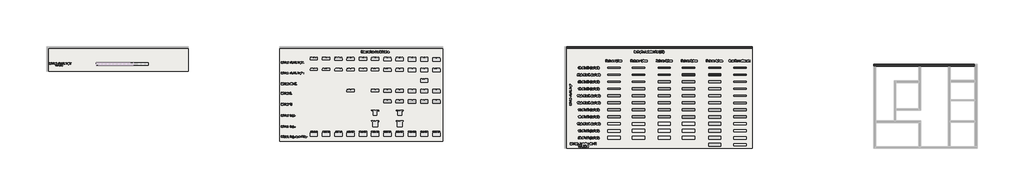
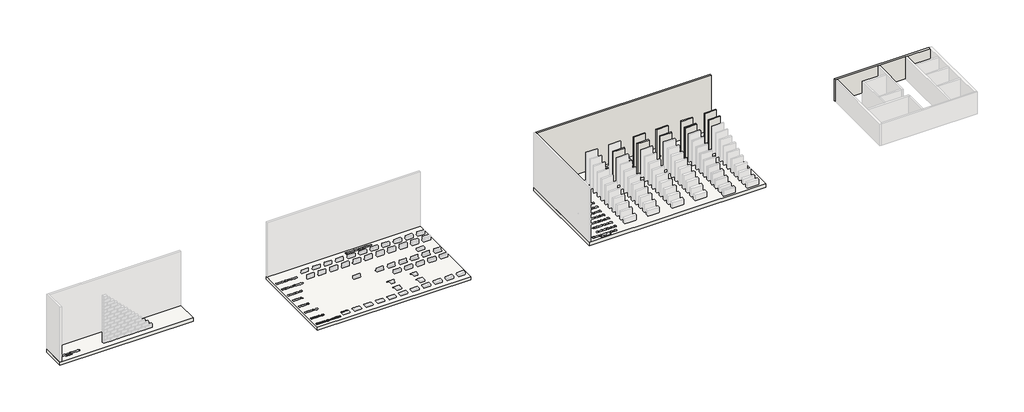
# One storey, part 2 of 26: 11 walls, 3 proxies, 3 slabs.
"""IFC4 building model written with IfcOpenShell, lengths in millimetres."""

from ifc_helpers import new_model, si_unit, frame, origin, origin_with_axes, place, context, project, spatial, polyline, outline, extrude, faceted_brep, element, save

model = new_model("IFC4")

# Units and contexts
model_context = context("Model", 3, world=origin())
ifc_project = project(units=[si_unit("LENGTHUNIT", "METRE", prefix="MILLI")], contexts=[model_context])

# Site, building, storey
site = spatial("IfcSite", under=ifc_project)
building = spatial("IfcBuilding", under=site)
storey = spatial("IfcBuildingStorey", under=building, Name="Catálogo Celucon", Elevation=0.0)

# Proxies
placement = place(None, origin())
element("IfcBuildingElementProxy", 1, Name="Legenda Tabela de Módulos", ObjectType="Legenda Tabela de Módulos", at=placement, inside=storey, context=model_context, shape_type="SweptSolid", body=[
    extrude(outline(polyline([(-16139.397214, -4234.6760122), (-16139.397214, -4083.9915469), (-16106.9868102, -4083.9915469), (-16076.158299, -4190.199079), (-16069.9410933, -4212.3823633), (-16063.2088528, -4188.359669), (-16032.8953764, -4083.9915469), (-16000.4849726, -4083.9915469), (-16000.4849726, -4234.6760122), (-16019.3205308, -4234.6760122), (-16019.3205308, -4102.8271051), (-16057.1755881, -4234.6760122), (-16082.7065985, -4234.6760122), (-16120.5616558, -4102.8271051), (-16120.5616558, -4234.6760122), (-16139.397214, -4234.6760122)])), origin_with_axes(), (0.0, 0.0, 1.0), 20.0),
    extrude(outline(polyline([(-15974.5860802, -4179.3465601), (-15970.5117871, -4152.6659184), (-15958.2889078, -4133.9131337), (-15943.1873519, -4124.7252809), (-15925.1059518, -4121.6626633), (-15905.318499, -4125.392067), (-15889.5133688, -4136.5802782), (-15879.1528921, -4154.34438), (-15875.6993999, -4177.8014557), (-15877.2261101, -4196.8301519), (-15881.806241, -4211.3155055), (-15889.3064352, -4222.1634258), (-15899.5933354, -4230.2798223), (-15911.8116162, -4235.3427983), (-15925.1059518, -4237.0304569), (-15945.1325279, -4233.3148488), (-15960.919264, -4222.1680243), (-15971.1693761, -4204.031442), (-15974.5860802, -4179.3465601)]), holes=[polyline([(-15955.750522, -4179.3097719), (-15953.5708212, -4196.3565038), (-15947.0317187, -4208.5012082), (-15937.1908754, -4215.7714761), (-15925.1059518, -4218.1948988), (-15913.0762106, -4215.7576806), (-15903.2537613, -4208.4460259), (-15896.7146588, -4196.1403732), (-15894.534958, -4178.7211607), (-15896.7284544, -4162.1710694), (-15903.3089436, -4150.191912), (-15913.1451884, -4142.921644), (-15925.1059518, -4140.4982214), (-15937.1908754, -4142.912447), (-15947.0317187, -4150.1551238), (-15953.5708212, -4162.272237), (-15955.750522, -4179.3097719)])]), origin_with_axes(), (0.0, 0.0, 1.0), 20.0),
    extrude(outline(polyline([(-15939.2694086, -4112.2448842), (-15925.14274, -4083.9915469), (-15901.5982923, -4083.9915469), (-15925.14274, -4112.2448842), (-15939.2694086, -4112.2448842)])), origin_with_axes(), (0.0, 0.0, 1.0), 20.0),
    extrude(outline(polyline([(-15786.2304986, -4234.6760122), (-15786.2304986, -4216.9073118), (-15798.6925012, -4231.9996707), (-15815.9185756, -4237.0304569), (-15828.0954697, -4235.2094411), (-15839.2422941, -4229.7463934), (-15848.6784673, -4221.0229916), (-15855.7234075, -4209.4209132), (-15860.1104003, -4195.4092077), (-15861.5727312, -4179.4569247), (-15856.18326, -4149.4745421), (-15849.4510195, -4137.5827566), (-15840.0332404, -4128.8363622), (-15828.6426942, -4123.456088), (-15815.992152, -4121.6626633), (-15798.6281219, -4126.7946171), (-15786.2304986, -4140.1303394), (-15786.2304986, -4083.9915469), (-15767.3949405, -4083.9915469), (-15767.3949405, -4234.6760122), (-15786.2304986, -4234.6760122)]), holes=[polyline([(-15842.7371731, -4179.3833483), (-15840.6126546, -4196.4208832), (-15834.239099, -4208.5379964), (-15824.9776698, -4215.7806732), (-15814.1895303, -4218.1948988), (-15803.4059893, -4215.8910378), (-15794.3790848, -4208.9794548), (-15788.2676452, -4197.3313911), (-15786.2304986, -4180.8180881), (-15788.3044334, -4162.7642792), (-15794.5262376, -4150.2470943), (-15803.7830683, -4142.9354396), (-15814.9620825, -4140.4982214), (-15825.8605866, -4142.8388706), (-15834.790922, -4149.8608182), (-15840.7506103, -4161.9227491), (-15842.7371731, -4179.3833483)])]), origin_with_axes(), (0.0, 0.0, 1.0), 20.0),
    extrude(outline(polyline([(-15668.5082602, -4234.6760122), (-15668.5082602, -4215.656513), (-15683.2603282, -4231.686971), (-15702.5005565, -4237.0304569), (-15720.2140746, -4233.2780606), (-15732.4277568, -4223.8602815), (-15738.0379573, -4209.9911303), (-15739.1416032, -4192.4799473), (-15739.1416032, -4124.017108), (-15720.3060451, -4124.017108), (-15720.3060451, -4183.6139912), (-15719.1656109, -4202.8174314), (-15711.7160005, -4214.0930145), (-15697.6813024, -4218.1948988), (-15681.9543471, -4214.001044), (-15671.5616807, -4202.5783081), (-15668.5082602, -4181.5906403), (-15668.5082602, -4124.017108), (-15649.672702, -4124.017108), (-15649.672702, -4234.6760122), (-15668.5082602, -4234.6760122)])), origin_with_axes(), (0.0, 0.0, 1.0), 20.0),
    extrude(outline(polyline([(-15623.7738096, -4234.6760122), (-15623.7738096, -4083.9915469), (-15604.9382514, -4083.9915469), (-15604.9382514, -4234.6760122), (-15623.7738096, -4234.6760122)])), origin_with_axes(), (0.0, 0.0, 1.0), 20.0),
    extrude(outline(polyline([(-15581.3938037, -4179.3465601), (-15577.3195106, -4152.6659184), (-15565.0966313, -4133.9131337), (-15549.9950754, -4124.7252809), (-15531.9136754, -4121.6626633), (-15512.1262226, -4125.392067), (-15496.3210923, -4136.5802782), (-15485.9606156, -4154.34438), (-15482.5071234, -4177.8014557), (-15484.0338337, -4196.8301519), (-15488.6139645, -4211.3155055), (-15496.1141587, -4222.1634258), (-15506.401059, -4230.2798223), (-15518.6193398, -4235.3427983), (-15531.9136754, -4237.0304569), (-15551.9402515, -4233.3148488), (-15567.7269876, -4222.1680243), (-15577.9770997, -4204.031442), (-15581.3938037, -4179.3465601)]), holes=[polyline([(-15562.5582456, -4179.3097719), (-15560.3785447, -4196.3565038), (-15553.8394423, -4208.5012082), (-15543.9985989, -4215.7714761), (-15531.9136754, -4218.1948988), (-15519.8839341, -4215.7576806), (-15510.0614849, -4208.4460259), (-15503.5223824, -4196.1403732), (-15501.3426816, -4178.7211607), (-15503.536178, -4162.1710694), (-15510.1166672, -4150.191912), (-15519.952912, -4142.921644), (-15531.9136754, -4140.4982214), (-15543.9985989, -4142.912447), (-15553.8394423, -4150.1551238), (-15560.3785447, -4162.272237), (-15562.5582456, -4179.3097719)])]), origin_with_axes(), (0.0, 0.0, 1.0), 20.0),
    extrude(outline(polyline([(-15400.1015565, -4234.6760122), (-15400.1015565, -4083.9915469), (-15381.2659983, -4083.9915469), (-15381.2659983, -4215.840454), (-15305.9237657, -4215.840454), (-15305.9237657, -4234.6760122), (-15400.1015565, -4234.6760122)])), origin_with_axes(), (0.0, 0.0, 1.0), 20.0),
    extrude(outline(polyline([(-15171.7204139, -4102.8271051), (-15171.7204139, -4083.9915469), (-15152.8848557, -4083.9915469), (-15152.8848557, -4102.8271051), (-15171.7204139, -4102.8271051)])), origin_with_axes(), (0.0, 0.0, 1.0), 20.0),
    extrude(outline(polyline([(-15195.4488026, -4277.1295944), (-15191.475677, -4259.2137412), (-15182.8304501, -4260.5749046), (-15174.4611348, -4256.8409024), (-15171.7204139, -4238.1708911), (-15171.7204139, -4124.017108), (-15152.8848557, -4124.017108), (-15152.8848557, -4240.5989123), (-15154.218428, -4257.8893661), (-15158.2191447, -4268.9994023), (-15167.2322535, -4276.8076977), (-15180.7335228, -4279.4104628), (-15195.4488026, -4277.1295944)])), origin_with_axes(), (0.0, 0.0, 1.0), 20.0),
    extrude(outline(polyline([(-15216.4548645, -4220.5493436), (-15234.7202056, -4233.3148488), (-15254.898533, -4237.0304569), (-15270.6392839, -4234.7955738), (-15282.2505593, -4228.0909245), (-15289.4104627, -4217.9097902), (-15291.7970971, -4205.2454526), (-15288.1918536, -4190.3462318), (-15278.7188922, -4179.5305011), (-15265.5303227, -4173.3500836), (-15249.2331503, -4170.5173922), (-15216.5652291, -4164.0426691), (-15216.4548645, -4159.8488144), (-15217.7516485, -4151.4427108), (-15221.6420006, -4145.9428749), (-15230.3424098, -4141.8593848), (-15242.4641216, -4140.4982214), (-15261.5204089, -4144.1218591), (-15270.6070942, -4156.9793348), (-15289.4426523, -4154.62489), (-15281.2940662, -4136.2307903), (-15264.8865292, -4125.4518478), (-15240.0361004, -4121.6626633), (-15217.2090226, -4125.0103894), (-15204.3147587, -4133.416493), (-15198.5390113, -4146.2003923), (-15197.6193063, -4162.6815057), (-15197.6193063, -4186.1155888), (-15196.6628132, -4218.8386923), (-15192.9104168, -4234.6760122), (-15211.745975, -4234.6760122), (-15216.4548645, -4220.5493436)]), holes=[polyline([(-15216.4548645, -4182.8782272), (-15246.8419173, -4188.6539746), (-15263.0471192, -4191.7073951), (-15270.386365, -4196.6738021), (-15272.961539, -4203.9210774), (-15267.3513385, -4214.1114086), (-15250.8886193, -4218.1948988), (-15231.8323319, -4213.6883443), (-15219.5450733, -4202.7806432), (-15216.5652291, -4188.2125162), (-15216.4548645, -4182.8782272)])]), origin_with_axes(), (0.0, 0.0, 1.0), 20.0),
    extrude(outline(polyline([(-15047.1555703, -4201.7137854), (-15028.6878942, -4204.0682302), (-15035.3419598, -4217.9833666), (-15045.9599538, -4228.3852301), (-15060.3027531, -4234.8691502), (-15078.1312343, -4237.0304569), (-15100.2317452, -4233.3010532), (-15117.2370904, -4222.112842), (-15128.0804122, -4204.1923903), (-15131.6948528, -4180.2662651), (-15128.043624, -4155.535398), (-15117.0899376, -4137.0401307), (-15100.3145186, -4125.5070301), (-15079.1980921, -4121.6626633), (-15058.7392546, -4125.4978331), (-15042.3914985, -4137.0033425), (-15031.6723369, -4155.4618216), (-15028.099283, -4180.1559005), (-15028.2096476, -4185.232672), (-15112.8592947, -4185.232672), (-15109.5989405, -4199.3317495), (-15102.0251699, -4209.6968247), (-15091.0944761, -4216.0703803), (-15077.7633523, -4218.1948988), (-15059.2956762, -4214.2585614), (-15047.1555703, -4201.7137854)]), holes=[polyline([(-15112.8592947, -4166.3971139), (-15046.9348411, -4166.3971139), (-15049.4824239, -4156.4459059), (-15054.476422, -4149.3273893), (-15065.4576996, -4142.7055134), (-15079.2716685, -4140.4982214), (-15091.9681959, -4142.2594565), (-15102.4666283, -4147.5431616), (-15109.7644874, -4155.7791198), (-15112.8592947, -4166.3971139)])]), origin_with_axes(), (0.0, 0.0, 1.0), 20.0),
])
element("IfcBuildingElementProxy", 2, Name="Legenda Tabela de Módulos", ObjectType="Legenda Tabela de Módulos", at=placement, inside=storey, context=model_context, shape_type="SweptSolid", body=[
    extrude(outline(polyline([(-16139.397214, -5054.6760122), (-16139.397214, -4903.9915469), (-16106.9868102, -4903.9915469), (-16076.158299, -5010.199079), (-16069.9410933, -5032.3823633), (-16063.2088528, -5008.359669), (-16032.8953764, -4903.9915469), (-16000.4849726, -4903.9915469), (-16000.4849726, -5054.6760122), (-16019.3205308, -5054.6760122), (-16019.3205308, -4922.8271051), (-16057.1755881, -5054.6760122), (-16082.7065985, -5054.6760122), (-16120.5616558, -4922.8271051), (-16120.5616558, -5054.6760122), (-16139.397214, -5054.6760122)])), origin_with_axes(), (0.0, 0.0, 1.0), 20.0),
    extrude(outline(polyline([(-15974.5860802, -4999.3465601), (-15970.5117871, -4972.6659184), (-15958.2889078, -4953.9131337), (-15943.1873519, -4944.7252809), (-15925.1059518, -4941.6626633), (-15905.318499, -4945.392067), (-15889.5133688, -4956.5802782), (-15879.1528921, -4974.34438), (-15875.6993999, -4997.8014557), (-15877.2261101, -5016.8301519), (-15881.806241, -5031.3155055), (-15889.3064352, -5042.1634258), (-15899.5933354, -5050.2798223), (-15911.8116162, -5055.3427983), (-15925.1059518, -5057.0304569), (-15945.1325279, -5053.3148488), (-15960.919264, -5042.1680243), (-15971.1693761, -5024.031442), (-15974.5860802, -4999.3465601)]), holes=[polyline([(-15955.750522, -4999.3097719), (-15953.5708212, -5016.3565038), (-15947.0317187, -5028.5012082), (-15937.1908754, -5035.7714761), (-15925.1059518, -5038.1948988), (-15913.0762106, -5035.7576806), (-15903.2537613, -5028.4460259), (-15896.7146588, -5016.1403732), (-15894.534958, -4998.7211607), (-15896.7284544, -4982.1710694), (-15903.3089436, -4970.191912), (-15913.1451884, -4962.921644), (-15925.1059518, -4960.4982214), (-15937.1908754, -4962.912447), (-15947.0317187, -4970.1551238), (-15953.5708212, -4982.272237), (-15955.750522, -4999.3097719)])]), origin_with_axes(), (0.0, 0.0, 1.0), 20.0),
    extrude(outline(polyline([(-15939.2694086, -4932.2448842), (-15925.14274, -4903.9915469), (-15901.5982923, -4903.9915469), (-15925.14274, -4932.2448842), (-15939.2694086, -4932.2448842)])), origin_with_axes(), (0.0, 0.0, 1.0), 20.0),
    extrude(outline(polyline([(-15786.2304986, -5054.6760122), (-15786.2304986, -5036.9073118), (-15798.6925012, -5051.9996707), (-15815.9185756, -5057.0304569), (-15828.0954697, -5055.2094411), (-15839.2422941, -5049.7463934), (-15848.6784673, -5041.0229916), (-15855.7234075, -5029.4209132), (-15860.1104003, -5015.4092077), (-15861.5727312, -4999.4569247), (-15856.18326, -4969.4745421), (-15849.4510195, -4957.5827566), (-15840.0332404, -4948.8363622), (-15828.6426942, -4943.456088), (-15815.992152, -4941.6626633), (-15798.6281219, -4946.7946171), (-15786.2304986, -4960.1303394), (-15786.2304986, -4903.9915469), (-15767.3949405, -4903.9915469), (-15767.3949405, -5054.6760122), (-15786.2304986, -5054.6760122)]), holes=[polyline([(-15842.7371731, -4999.3833483), (-15840.6126546, -5016.4208832), (-15834.239099, -5028.5379964), (-15824.9776698, -5035.7806732), (-15814.1895303, -5038.1948988), (-15803.4059893, -5035.8910378), (-15794.3790848, -5028.9794548), (-15788.2676452, -5017.3313911), (-15786.2304986, -5000.8180881), (-15788.3044334, -4982.7642792), (-15794.5262376, -4970.2470943), (-15803.7830683, -4962.9354396), (-15814.9620825, -4960.4982214), (-15825.8605866, -4962.8388706), (-15834.790922, -4969.8608182), (-15840.7506103, -4981.9227491), (-15842.7371731, -4999.3833483)])]), origin_with_axes(), (0.0, 0.0, 1.0), 20.0),
    extrude(outline(polyline([(-15668.5082602, -5054.6760122), (-15668.5082602, -5035.656513), (-15683.2603282, -5051.686971), (-15702.5005565, -5057.0304569), (-15720.2140746, -5053.2780606), (-15732.4277568, -5043.8602815), (-15738.0379573, -5029.9911303), (-15739.1416032, -5012.4799473), (-15739.1416032, -4944.017108), (-15720.3060451, -4944.017108), (-15720.3060451, -5003.6139912), (-15719.1656109, -5022.8174314), (-15711.7160005, -5034.0930145), (-15697.6813024, -5038.1948988), (-15681.9543471, -5034.001044), (-15671.5616807, -5022.5783081), (-15668.5082602, -5001.5906403), (-15668.5082602, -4944.017108), (-15649.672702, -4944.017108), (-15649.672702, -5054.6760122), (-15668.5082602, -5054.6760122)])), origin_with_axes(), (0.0, 0.0, 1.0), 20.0),
    extrude(outline(polyline([(-15623.7738096, -5054.6760122), (-15623.7738096, -4903.9915469), (-15604.9382514, -4903.9915469), (-15604.9382514, -5054.6760122), (-15623.7738096, -5054.6760122)])), origin_with_axes(), (0.0, 0.0, 1.0), 20.0),
    extrude(outline(polyline([(-15581.3938037, -4999.3465601), (-15577.3195106, -4972.6659184), (-15565.0966313, -4953.9131337), (-15549.9950754, -4944.7252809), (-15531.9136754, -4941.6626633), (-15512.1262226, -4945.392067), (-15496.3210923, -4956.5802782), (-15485.9606156, -4974.34438), (-15482.5071234, -4997.8014557), (-15484.0338337, -5016.8301519), (-15488.6139645, -5031.3155055), (-15496.1141587, -5042.1634258), (-15506.401059, -5050.2798223), (-15518.6193398, -5055.3427983), (-15531.9136754, -5057.0304569), (-15551.9402515, -5053.3148488), (-15567.7269876, -5042.1680243), (-15577.9770997, -5024.031442), (-15581.3938037, -4999.3465601)]), holes=[polyline([(-15562.5582456, -4999.3097719), (-15560.3785447, -5016.3565038), (-15553.8394423, -5028.5012082), (-15543.9985989, -5035.7714761), (-15531.9136754, -5038.1948988), (-15519.8839341, -5035.7576806), (-15510.0614849, -5028.4460259), (-15503.5223824, -5016.1403732), (-15501.3426816, -4998.7211607), (-15503.536178, -4982.1710694), (-15510.1166672, -4970.191912), (-15519.952912, -4962.921644), (-15531.9136754, -4960.4982214), (-15543.9985989, -4962.912447), (-15553.8394423, -4970.1551238), (-15560.3785447, -4982.272237), (-15562.5582456, -4999.3097719)])]), origin_with_axes(), (0.0, 0.0, 1.0), 20.0),
    extrude(outline(polyline([(-15400.1015565, -5054.6760122), (-15400.1015565, -4903.9915469), (-15381.2659983, -4903.9915469), (-15381.2659983, -5035.840454), (-15305.9237657, -5035.840454), (-15305.9237657, -5054.6760122), (-15400.1015565, -5054.6760122)])), origin_with_axes(), (0.0, 0.0, 1.0), 20.0),
    extrude(outline(polyline([(-15171.7204139, -4922.8271051), (-15171.7204139, -4903.9915469), (-15152.8848557, -4903.9915469), (-15152.8848557, -4922.8271051), (-15171.7204139, -4922.8271051)])), origin_with_axes(), (0.0, 0.0, 1.0), 20.0),
    extrude(outline(polyline([(-15195.4488026, -5097.1295944), (-15191.475677, -5079.2137412), (-15182.8304501, -5080.5749046), (-15174.4611348, -5076.8409024), (-15171.7204139, -5058.1708911), (-15171.7204139, -4944.017108), (-15152.8848557, -4944.017108), (-15152.8848557, -5060.5989123), (-15154.218428, -5077.8893661), (-15158.2191447, -5088.9994023), (-15167.2322535, -5096.8076977), (-15180.7335228, -5099.4104628), (-15195.4488026, -5097.1295944)])), origin_with_axes(), (0.0, 0.0, 1.0), 20.0),
    extrude(outline(polyline([(-15216.4548645, -5040.5493436), (-15234.7202056, -5053.3148488), (-15254.898533, -5057.0304569), (-15270.6392839, -5054.7955738), (-15282.2505593, -5048.0909245), (-15289.4104627, -5037.9097902), (-15291.7970971, -5025.2454526), (-15288.1918536, -5010.3462318), (-15278.7188922, -4999.5305011), (-15265.5303227, -4993.3500836), (-15249.2331503, -4990.5173922), (-15216.5652291, -4984.0426691), (-15216.4548645, -4979.8488144), (-15217.7516485, -4971.4427108), (-15221.6420006, -4965.9428749), (-15230.3424098, -4961.8593848), (-15242.4641216, -4960.4982214), (-15261.5204089, -4964.1218591), (-15270.6070942, -4976.9793348), (-15289.4426523, -4974.62489), (-15281.2940662, -4956.2307903), (-15264.8865292, -4945.4518478), (-15240.0361004, -4941.6626633), (-15217.2090226, -4945.0103894), (-15204.3147587, -4953.416493), (-15198.5390113, -4966.2003923), (-15197.6193063, -4982.6815057), (-15197.6193063, -5006.1155888), (-15196.6628132, -5038.8386923), (-15192.9104168, -5054.6760122), (-15211.745975, -5054.6760122), (-15216.4548645, -5040.5493436)]), holes=[polyline([(-15216.4548645, -5002.8782272), (-15246.8419173, -5008.6539746), (-15263.0471192, -5011.7073951), (-15270.386365, -5016.6738021), (-15272.961539, -5023.9210774), (-15267.3513385, -5034.1114086), (-15250.8886193, -5038.1948988), (-15231.8323319, -5033.6883443), (-15219.5450733, -5022.7806432), (-15216.5652291, -5008.2125162), (-15216.4548645, -5002.8782272)])]), origin_with_axes(), (0.0, 0.0, 1.0), 20.0),
    extrude(outline(polyline([(-15047.1555703, -5021.7137854), (-15028.6878942, -5024.0682302), (-15035.3419598, -5037.9833666), (-15045.9599538, -5048.3852301), (-15060.3027531, -5054.8691502), (-15078.1312343, -5057.0304569), (-15100.2317452, -5053.3010532), (-15117.2370904, -5042.112842), (-15128.0804122, -5024.1923903), (-15131.6948528, -5000.2662651), (-15128.043624, -4975.535398), (-15117.0899376, -4957.0401307), (-15100.3145186, -4945.5070301), (-15079.1980921, -4941.6626633), (-15058.7392546, -4945.4978331), (-15042.3914985, -4957.0033425), (-15031.6723369, -4975.4618216), (-15028.099283, -5000.1559005), (-15028.2096476, -5005.232672), (-15112.8592947, -5005.232672), (-15109.5989405, -5019.3317495), (-15102.0251699, -5029.6968247), (-15091.0944761, -5036.0703803), (-15077.7633523, -5038.1948988), (-15059.2956762, -5034.2585614), (-15047.1555703, -5021.7137854)]), holes=[polyline([(-15112.8592947, -4986.3971139), (-15046.9348411, -4986.3971139), (-15049.4824239, -4976.4459059), (-15054.476422, -4969.3273893), (-15065.4576996, -4962.7055134), (-15079.2716685, -4960.4982214), (-15091.9681959, -4962.2594565), (-15102.4666283, -4967.5431616), (-15109.7644874, -4975.7791198), (-15112.8592947, -4986.3971139)])]), origin_with_axes(), (0.0, 0.0, 1.0), 20.0),
    extrude(outline(polyline([(-14879.7692625, -5014.6504511), (-14860.9337044, -5017.0048959), (-14866.1852198, -5033.7573222), (-14876.0536544, -5046.4170614), (-14889.6101059, -5054.377108), (-14905.9256724, -5057.0304569), (-14925.9614455, -5053.3286444), (-14941.62862, -5042.2232066), (-14951.7407763, -5024.2015874), (-14955.1114951, -4999.7512303), (-14953.6721568, -4982.9896069), (-14949.3541419, -4968.4628666), (-14942.0884725, -4956.7320295), (-14931.8061707, -4948.3581156), (-14919.5051165, -4943.3365263), (-14906.1831898, -4941.6626633), (-14890.267695, -4943.9619257), (-14877.5435764, -4950.8597131), (-14868.4155044, -4961.9881435), (-14863.2881491, -4976.9793348), (-14882.1237073, -4979.3337796), (-14890.8609047, -4965.225505), (-14906.036037, -4960.4982214), (-14918.2083325, -4962.825075), (-14927.8698334, -4969.8056359), (-14934.1744111, -4981.816983), (-14936.275937, -4999.2361955), (-14934.2203963, -5016.8899327), (-14928.0537744, -5028.9426666), (-14918.5670174, -5035.8818407), (-14906.5510718, -5038.1948988), (-14896.7976004, -5036.750962), (-14888.8007655, -5032.4191515), (-14882.9836314, -5025.0891027), (-14879.7692625, -5014.6504511)])), origin_with_axes(), (0.0, 0.0, 1.0), 20.0),
    extrude(outline(polyline([(-14849.1614805, -4999.3465601), (-14845.0871874, -4972.6659184), (-14832.8643081, -4953.9131337), (-14817.7627522, -4944.7252809), (-14799.6813522, -4941.6626633), (-14779.8938994, -4945.392067), (-14764.0887691, -4956.5802782), (-14753.7282924, -4974.34438), (-14750.2748002, -4997.8014557), (-14751.8015105, -5016.8301519), (-14756.3816413, -5031.3155055), (-14763.8818355, -5042.1634258), (-14774.1687358, -5050.2798223), (-14786.3870166, -5055.3427983), (-14799.6813522, -5057.0304569), (-14819.7079283, -5053.3148488), (-14835.4946644, -5042.1680243), (-14845.7447765, -5024.031442), (-14849.1614805, -4999.3465601)]), holes=[polyline([(-14830.3259224, -4999.3097719), (-14828.1462215, -5016.3565038), (-14821.6071191, -5028.5012082), (-14811.7662757, -5035.7714761), (-14799.6813522, -5038.1948988), (-14787.6516109, -5035.7576806), (-14777.8291617, -5028.4460259), (-14771.2900592, -5016.1403732), (-14769.1103584, -4998.7211607), (-14771.3038548, -4982.1710694), (-14777.884344, -4970.191912), (-14787.7205888, -4962.921644), (-14799.6813522, -4960.4982214), (-14811.7662757, -4962.912447), (-14821.6071191, -4970.1551238), (-14828.1462215, -4982.272237), (-14830.3259224, -4999.3097719)])]), origin_with_axes(), (0.0, 0.0, 1.0), 20.0),
    extrude(outline(polyline([(-14729.0847973, -5054.6760122), (-14729.0847973, -4944.017108), (-14710.2492391, -4944.017108), (-14710.2492391, -4962.2272668), (-14697.2997929, -4947.3096519), (-14678.868905, -4941.6626633), (-14668.3934651, -4943.1020016), (-14659.9965586, -4947.4200165), (-14649.6222863, -4963.551642), (-14634.9254006, -4947.1349079), (-14616.365754, -4941.6626633), (-14602.2068957, -4943.9389331), (-14591.7360544, -4950.7677426), (-14585.2659298, -4962.3330329), (-14583.1092216, -4978.8187448), (-14583.1092216, -5054.6760122), (-14601.9447798, -5054.6760122), (-14601.9447798, -4986.9121487), (-14603.6922192, -4971.1851934), (-14610.0197896, -4963.4412774), (-14620.7803379, -4960.4982214), (-14630.9844648, -4962.3836166), (-14639.3031964, -4968.0398023), (-14644.8352219, -4977.8530545), (-14646.6792304, -4992.2096494), (-14646.6792304, -5054.6760122), (-14665.5147885, -5054.6760122), (-14665.5147885, -4984.8152213), (-14669.8741902, -4966.5682743), (-14675.6269449, -4962.0157346), (-14684.1664057, -4960.4982214), (-14698.1091333, -4964.5449234), (-14707.3797596, -4976.3907236), (-14710.2492391, -4998.8683135), (-14710.2492391, -5054.6760122), (-14729.0847973, -5054.6760122)])), origin_with_axes(), (0.0, 0.0, 1.0), 20.0),
    extrude(outline(polyline([(-14493.6403204, -5054.6760122), (-14493.6403204, -4903.9915469), (-14392.3991953, -4903.9915469), (-14392.3991953, -4922.8271051), (-14474.8047622, -4922.8271051), (-14474.8047622, -4967.5615557), (-14404.1714192, -4967.5615557), (-14404.1714192, -4986.3971139), (-14474.8047622, -4986.3971139), (-14474.8047622, -5054.6760122), (-14493.6403204, -5054.6760122)])), origin_with_axes(), (0.0, 0.0, 1.0), 20.0),
    extrude(outline(polyline([(-14368.8547476, -5054.6760122), (-14368.8547476, -4944.017108), (-14352.3736342, -4944.017108), (-14352.3736342, -4960.3878568), (-14340.6749868, -4945.304695), (-14328.9027629, -4941.6626633), (-14309.9936284, -4947.4751988), (-14316.2844105, -4964.3609824), (-14329.5281623, -4960.4982214), (-14340.1783461, -4964.2138296), (-14346.9657689, -4974.5145254), (-14350.0191895, -4996.5138687), (-14350.0191895, -5054.6760122), (-14368.8547476, -5054.6760122)])), origin_with_axes(), (0.0, 0.0, 1.0), 20.0),
    extrude(outline(polyline([(-14298.2214045, -4922.8271051), (-14298.2214045, -4903.9915469), (-14279.3858464, -4903.9915469), (-14279.3858464, -4922.8271051), (-14298.2214045, -4922.8271051)])), origin_with_axes(), (0.0, 0.0, 1.0), 20.0),
    extrude(outline(polyline([(-14298.2214045, -5054.6760122), (-14298.2214045, -4944.017108), (-14279.3858464, -4944.017108), (-14279.3858464, -5054.6760122), (-14298.2214045, -5054.6760122)])), origin_with_axes(), (0.0, 0.0, 1.0), 20.0),
    extrude(outline(polyline([(-14258.1958435, -5021.7137854), (-14239.3602853, -5019.3593406), (-14236.3896382, -5027.4159563), (-14230.641482, -5033.3388564), (-14210.6654897, -5038.1948988), (-14191.4620495, -5033.7435266), (-14185.2080556, -5023.295678), (-14186.7807512, -5018.4948179), (-14191.4988377, -5014.8343921), (-14210.8862189, -5009.463315), (-14239.2499207, -5000.247871), (-14251.6291499, -4989.4873226), (-14255.8413987, -4974.2937962), (-14252.4568843, -4960.2590981), (-14243.2230463, -4949.5353379), (-14231.2484873, -4943.9619257), (-14215.0432854, -4941.6626633), (-14192.1242371, -4945.3598773), (-14177.5561101, -4955.3662676), (-14171.081387, -4972.2704453), (-14189.9169452, -4974.62489), (-14196.9986736, -4964.2322237), (-14213.5717575, -4960.4982214), (-14231.5979752, -4964.0666768), (-14237.0058405, -4972.3808098), (-14234.7617604, -4977.8622516), (-14227.7352143, -4982.0193181), (-14211.5116183, -4986.0292319), (-14183.8652863, -4994.895188), (-14171.0262047, -5004.9383664), (-14166.3724975, -5021.3091152), (-14171.8355451, -5039.335333), (-14187.5992886, -5052.4135379), (-14210.9230071, -5057.0304569), (-14229.9149151, -5054.8047709), (-14243.7748693, -5048.1277127), (-14253.0271014, -5037.0728587), (-14258.1958435, -5021.7137854)])), origin_with_axes(), (0.0, 0.0, 1.0), 20.0),
    extrude(outline(polyline([(-14149.8913841, -4999.3465601), (-14145.817091, -4972.6659184), (-14133.5942117, -4953.9131337), (-14118.4926558, -4944.7252809), (-14100.4112557, -4941.6626633), (-14080.6238029, -4945.392067), (-14064.8186727, -4956.5802782), (-14054.458196, -4974.34438), (-14051.0047038, -4997.8014557), (-14052.5314141, -5016.8301519), (-14057.1115449, -5031.3155055), (-14064.6117391, -5042.1634258), (-14074.8986394, -5050.2798223), (-14087.1169201, -5055.3427983), (-14100.4112557, -5057.0304569), (-14120.4378318, -5053.3148488), (-14136.224568, -5042.1680243), (-14146.4746801, -5024.031442), (-14149.8913841, -4999.3465601)]), holes=[polyline([(-14131.0558259, -4999.3097719), (-14128.8761251, -5016.3565038), (-14122.3370226, -5028.5012082), (-14112.4961793, -5035.7714761), (-14100.4112557, -5038.1948988), (-14088.3815145, -5035.7576806), (-14078.5590652, -5028.4460259), (-14072.0199628, -5016.1403732), (-14069.8402619, -4998.7211607), (-14072.0337583, -4982.1710694), (-14078.6142475, -4970.191912), (-14088.4504924, -4962.921644), (-14100.4112557, -4960.4982214), (-14112.4961793, -4962.912447), (-14122.3370226, -4970.1551238), (-14128.8761251, -4982.272237), (-14131.0558259, -4999.3097719)])]), origin_with_axes(), (0.0, 0.0, 1.0), 20.0),
])
element("IfcBuildingElementProxy", 3, Name="Dimensões", ObjectType="Dimensões", at=placement, inside=storey, context=model_context, shape_type="SweptSolid", body=[
    extrude(outline(polyline([(-13781.5709703, -4574.9666048), (-13779.725429, -4560.5149738), (-13774.2439872, -4552.1824466), (-13765.0898569, -4549.4478571), (-13757.7567425, -4551.0665379), (-13752.6922337, -4555.7325078), (-13749.7491777, -4563.1637241), (-13748.6087435, -4574.9666048), (-13750.4358908, -4589.3569222), (-13755.8989384, -4597.7078435), (-13765.0898569, -4600.4608271), (-13776.5677752, -4595.6783612), (-13780.3201715, -4587.1833528), (-13781.5709703, -4574.9666048)]), holes=[polyline([(-13775.2924509, -4574.9543421), (-13772.349395, -4590.5464073), (-13765.0898569, -4594.1823077), (-13757.8303189, -4590.5341446), (-13754.8872629, -4574.9543421), (-13757.732217, -4559.5400865), (-13765.1634333, -4555.7263765), (-13772.2512931, -4559.0863654), (-13775.2924509, -4574.9543421)])]), origin_with_axes(), (0.0, 0.0, 1.0), 20.0),
    extrude(outline(polyline([(-13743.1150391, -4586.3341585), (-13736.8365197, -4585.5493436), (-13733.6727345, -4592.0179353), (-13727.1121723, -4594.1823077), (-13719.2394976, -4591.1718067), (-13716.4313317, -4583.1826361), (-13719.061688, -4575.7268943), (-13727.0140704, -4572.9923048), (-13732.526169, -4574.083688), (-13736.0517048, -4576.9163794), (-13742.3302242, -4576.1315645), (-13736.8365197, -4550.232672), (-13712.5072571, -4550.232672), (-13712.5072571, -4556.5111914), (-13731.7597482, -4556.5111914), (-13734.4452867, -4570.3435544), (-13725.2604996, -4566.7137854), (-13714.5244767, -4571.2142085), (-13710.1528123, -4582.7902286), (-13714.0891497, -4594.4398251), (-13719.7422697, -4598.9555766), (-13727.1366978, -4600.4608271), (-13738.2160772, -4596.5919348), (-13743.1150391, -4586.3341585)])), origin_with_axes(), (0.0, 0.0, 1.0), 20.0),
    extrude(outline(polyline([(-13707.0135526, -4599.6760122), (-13693.5981225, -4581.1347596), (-13706.2287377, -4562.7897108), (-13698.6748941, -4562.7897108), (-13692.5803157, -4571.6188787), (-13689.7353616, -4575.7882079), (-13687.2705522, -4572.3791681), (-13680.3298452, -4562.7897108), (-13672.7760016, -4562.7897108), (-13686.0442789, -4581.1347596), (-13673.2665109, -4599.6760122), (-13680.8203546, -4599.6760122), (-13688.5090883, -4588.5291877), (-13689.9193026, -4586.493574), (-13699.459709, -4599.6760122), (-13707.0135526, -4599.6760122)])), origin_with_axes(), (0.0, 0.0, 1.0), 20.0),
    extrude(outline(polyline([(-13669.3424363, -4586.3341585), (-13663.0639169, -4585.5493436), (-13659.5996948, -4592.1589567), (-13653.1188403, -4594.1823077), (-13645.4914203, -4591.3986673), (-13642.6587289, -4584.5070112), (-13645.4668948, -4578.013894), (-13652.6038055, -4575.4448514), (-13657.0061267, -4576.1315645), (-13656.3071509, -4569.8530451), (-13648.1769589, -4568.1239997), (-13645.0131737, -4562.5812443), (-13647.3063048, -4557.6700197), (-13653.2169422, -4555.7263765), (-13659.201156, -4557.6884138), (-13662.279102, -4563.5745257), (-13668.5576214, -4562.7897108), (-13663.4195362, -4552.942736), (-13653.4376714, -4549.4478571), (-13645.8654337, -4551.1707711), (-13640.5679329, -4555.8796606), (-13638.7346543, -4562.2133623), (-13640.4759624, -4568.0013724), (-13645.6263104, -4572.1584389), (-13638.7837052, -4576.4503955), (-13636.3802095, -4584.6173758), (-13641.1872009, -4595.8500394), (-13653.3395695, -4600.4608271), (-13664.3515039, -4596.5244897), (-13669.3424363, -4586.3341585)])), origin_with_axes(), (0.0, 0.0, 1.0), 20.0),
    extrude(outline(polyline([(-13630.8865051, -4574.9666048), (-13629.0409637, -4560.5149738), (-13623.559522, -4552.1824466), (-13614.4053917, -4549.4478571), (-13607.0722773, -4551.0665379), (-13602.0077685, -4555.7325078), (-13599.0647125, -4563.1637241), (-13597.9242783, -4574.9666048), (-13599.7514256, -4589.3569222), (-13605.2144732, -4597.7078435), (-13614.4053917, -4600.4608271), (-13625.8833099, -4595.6783612), (-13629.6357063, -4587.1833528), (-13630.8865051, -4574.9666048)]), holes=[polyline([(-13624.6079857, -4574.9543421), (-13621.6649297, -4590.5464073), (-13614.4053917, -4594.1823077), (-13607.1458537, -4590.5341446), (-13604.2027977, -4574.9543421), (-13607.0477518, -4559.5400865), (-13614.4789681, -4555.7263765), (-13621.5668279, -4559.0863654), (-13624.6079857, -4574.9543421)])]), origin_with_axes(), (0.0, 0.0, 1.0), 20.0),
    extrude(outline(polyline([(-13594.7850186, -4599.6760122), (-13581.3695885, -4581.1347596), (-13594.0002037, -4562.7897108), (-13586.4463601, -4562.7897108), (-13580.3517817, -4571.6188787), (-13577.5068276, -4575.7882079), (-13575.0420182, -4572.3791681), (-13568.1013112, -4562.7897108), (-13560.5474676, -4562.7897108), (-13573.8157449, -4581.1347596), (-13561.0379769, -4599.6760122), (-13568.5918206, -4599.6760122), (-13576.2805543, -4588.5291877), (-13577.6907686, -4586.493574), (-13587.231175, -4599.6760122), (-13594.7850186, -4599.6760122)])), origin_with_axes(), (0.0, 0.0, 1.0), 20.0),
    extrude(outline(polyline([(-13524.9364905, -4562.7897108), (-13531.2150099, -4563.5745257), (-13533.5939801, -4558.3383386), (-13539.8847622, -4555.7263765), (-13545.5501449, -4557.2469554), (-13549.8359702, -4562.9552577), (-13551.6201979, -4574.1450017), (-13546.0835738, -4569.1356752), (-13539.2225746, -4567.4986003), (-13528.5539968, -4571.9744979), (-13524.1516755, -4583.5382553), (-13526.2240775, -4592.2018763), (-13531.9262484, -4598.3332429), (-13540.1545423, -4600.4608271), (-13552.9507044, -4594.8199698), (-13556.661714, -4587.3519653), (-13557.8987172, -4576.2296663), (-13556.5252911, -4563.7247442), (-13552.4050128, -4555.1745535), (-13546.7794839, -4550.8795312), (-13539.4923547, -4549.4478571), (-13529.5718036, -4552.991787), (-13524.9364905, -4562.7897108)]), holes=[polyline([(-13551.6201979, -4583.4401534), (-13550.167064, -4588.8786756), (-13546.304303, -4592.8272757), (-13540.6450517, -4594.1823077), (-13533.2444922, -4591.3741418), (-13530.4301949, -4583.7467218), (-13533.207704, -4576.4442642), (-13540.9025691, -4573.7771197), (-13548.4993323, -4576.4442642), (-13551.6201979, -4583.4401534)])]), origin_with_axes(), (0.0, 0.0, 1.0), 20.0),
    extrude(outline(polyline([(-13518.6579711, -4574.9666048), (-13516.8124297, -4560.5149738), (-13511.330988, -4552.1824466), (-13502.1768577, -4549.4478571), (-13494.8437433, -4551.0665379), (-13489.7792345, -4555.7325078), (-13486.8361785, -4563.1637241), (-13485.6957443, -4574.9666048), (-13487.5228916, -4589.3569222), (-13492.9859392, -4597.7078435), (-13502.1768577, -4600.4608271), (-13513.654776, -4595.6783612), (-13517.4071723, -4587.1833528), (-13518.6579711, -4574.9666048)]), holes=[polyline([(-13512.3794517, -4574.9543421), (-13509.4363957, -4590.5464073), (-13502.1768577, -4594.1823077), (-13494.9173197, -4590.5341446), (-13491.9742637, -4574.9543421), (-13494.8192178, -4559.5400865), (-13502.2504341, -4555.7263765), (-13509.3382939, -4559.0863654), (-13512.3794517, -4574.9543421)])]), origin_with_axes(), (0.0, 0.0, 1.0), 20.0),
    extrude(outline(polyline([(-13446.4549982, -4613.8026808), (-13455.3700052, -4599.0751382), (-13459.0120369, -4581.5884807), (-13456.2897102, -4566.3213779), (-13446.4549982, -4549.4478571), (-13441.7461086, -4549.4478571), (-13447.6199578, -4559.3929337), (-13451.151625, -4569.031442), (-13452.7335176, -4581.6252689), (-13449.9866653, -4597.7201062), (-13441.7461086, -4613.8026808), (-13446.4549982, -4613.8026808)])), origin_with_axes(), (0.0, 0.0, 1.0), 20.0),
    extrude(outline(polyline([(-13434.6827743, -4599.6760122), (-13434.6827743, -4549.4478571), (-13428.4042549, -4549.4478571), (-13428.4042549, -4593.3974928), (-13403.2901774, -4593.3974928), (-13403.2901774, -4599.6760122), (-13434.6827743, -4599.6760122)])), origin_with_axes(), (0.0, 0.0, 1.0), 20.0),
    extrude(outline(polyline([(-13366.7594953, -4599.6760122), (-13346.7099265, -4549.4478571), (-13341.3633749, -4549.4478571), (-13321.3138061, -4599.6760122), (-13327.9479448, -4599.6760122), (-13333.6991666, -4583.9797137), (-13354.3863975, -4583.9797137), (-13360.1253566, -4599.6760122), (-13366.7594953, -4599.6760122)]), holes=[polyline([(-13352.0810037, -4577.7011943), (-13335.9922977, -4577.7011943), (-13340.5172463, -4565.352622), (-13344.0366507, -4555.7263765), (-13347.1636477, -4564.2735015), (-13352.0810037, -4577.7011943)])]), origin_with_axes(), (0.0, 0.0, 1.0), 20.0),
    extrude(outline(polyline([(-13400.9357326, -4599.6760122), (-13387.5203025, -4581.1347596), (-13400.1509177, -4562.7897108), (-13392.5970741, -4562.7897108), (-13386.5024957, -4571.6188787), (-13383.6575416, -4575.7882079), (-13381.1927322, -4572.3791681), (-13374.2520252, -4562.7897108), (-13366.6981816, -4562.7897108), (-13379.9664589, -4581.1347596), (-13367.1886909, -4599.6760122), (-13374.7425346, -4599.6760122), (-13382.4312683, -4588.5291877), (-13383.8414826, -4586.493574), (-13393.381889, -4599.6760122), (-13400.9357326, -4599.6760122)])), origin_with_axes(), (0.0, 0.0, 1.0), 20.0),
    extrude(outline(polyline([(-13319.3149806, -4599.6760122), (-13305.8995505, -4581.1347596), (-13318.5301657, -4562.7897108), (-13310.9763221, -4562.7897108), (-13304.8817437, -4571.6188787), (-13302.0367896, -4575.7882079), (-13299.5719802, -4572.3791681), (-13292.6312733, -4562.7897108), (-13285.0774296, -4562.7897108), (-13298.3457069, -4581.1347596), (-13285.5679389, -4599.6760122), (-13293.1217826, -4599.6760122), (-13300.8105163, -4588.5291877), (-13302.2207306, -4586.493574), (-13311.761137, -4599.6760122), (-13319.3149806, -4599.6760122)])), origin_with_axes(), (0.0, 0.0, 1.0), 20.0),
    extrude(outline(polyline([(-13243.972748, -4581.8214727), (-13237.6942286, -4583.4401534), (-13245.1377077, -4596.1014255), (-13258.2833576, -4600.4608271), (-13271.3492998, -4597.1621519), (-13279.0135081, -4587.6094827), (-13281.6438643, -4574.1817899), (-13278.6701515, -4560.5333679), (-13270.214997, -4551.6858059), (-13258.1484676, -4548.6630422), (-13245.5730347, -4552.5748541), (-13238.4790436, -4563.5867884), (-13244.7575629, -4565.0828419), (-13249.9079109, -4557.3634514), (-13258.3937222, -4554.9415616), (-13268.2161715, -4557.6271001), (-13273.7650583, -4564.8375872), (-13275.3653449, -4574.1695272), (-13273.4707527, -4584.9852578), (-13267.572378, -4591.895308), (-13258.908757, -4594.1823077), (-13249.3009056, -4591.0675735), (-13243.972748, -4581.8214727)])), origin_with_axes(), (0.0, 0.0, 1.0), 20.0),
    extrude(outline(polyline([(-13228.2764496, -4613.8026808), (-13232.9853391, -4613.8026808), (-13224.7447824, -4597.7201062), (-13221.9979302, -4581.6252689), (-13223.5798228, -4569.1418066), (-13227.0747017, -4559.4910356), (-13232.9853391, -4549.4478571), (-13228.2764496, -4549.4478571), (-13218.4417376, -4566.3213779), (-13215.7194108, -4581.5884807), (-13219.3798366, -4599.0751382), (-13228.2764496, -4613.8026808)])), origin_with_axes(), (0.0, 0.0, 1.0), 20.0),
])

# Slabs
element("IfcSlab", 4, ObjectType="Genérico 300 mm", at=placement, inside=storey, context=model_context, shape_type="SweptSolid", body=[
    extrude(outline(polyline([(-2997.8603756, 2357.466845), (-2997.8603756, -5356.8188693), (-16257.8603756, -5356.8188693), (-16257.8603756, 2357.466845), (-2997.8603756, 2357.466845)])), frame((0.0, 0.0, -300.0), z_axis=(0.0, 0.0, 1.0), x_axis=(1.0, 0.0, 0.0)), (0.0, 0.0, 1.0), 300.0),
])
element("IfcSlab", 5, ObjectType="Genérico 300 mm", at=placement, inside=storey, context=model_context, shape_type="SweptSolid", body=[
    extrude(outline(polyline([(-23723.9150984, 2357.466845), (-23723.9150984, 357.466845), (-35283.9150984, 357.466845), (-35283.9150984, 2357.466845), (-23723.9150984, 2357.466845)])), frame((0.0, 0.0, -300.0), z_axis=(0.0, 0.0, 1.0), x_axis=(1.0, 0.0, 0.0)), (0.0, 0.0, 1.0), 300.0),
])
element("IfcSlab", 6, ObjectType="Genérico 300 mm", at=placement, inside=storey, context=model_context, shape_type="SweptSolid", body=[
    extrude(outline(polyline([(22252.1396244, 2357.466845), (22252.1396244, -5928.2474407), (6942.1396244, -5928.2474407), (6942.1396244, 2357.466845), (22252.1396244, 2357.466845)])), frame((0.0, 0.0, -300.0), z_axis=(0.0, 0.0, 1.0), x_axis=(1.0, 0.0, 0.0)), (0.0, 0.0, 1.0), 300.0),
])

# Walls
element("IfcWall", 7, ObjectType="Módulo de Vedação - 05x30x60cm - Reboco 3,0cm", at=placement, inside=storey, context=model_context, shape_type="SweptSolid", body=[
    extrude(outline(polyline([(19689.4015231, 576.0427599), (18689.4015231, 576.0427599), (18689.4015231, 686.0427599), (19689.4015231, 686.0427599), (19689.4015231, 576.0427599)])), origin_with_axes(), (0.0, 0.0, 1.0), 3000.0),
])
element("IfcWall", 8, ObjectType="Módulo de Vedação - 05x30x60cm - Reboco 2,5cm", at=placement, inside=storey, context=model_context, shape_type="SweptSolid", body=[
    extrude(outline(polyline([(17549.4015231, 581.0427599), (16549.4015231, 581.0427599), (16549.4015231, 681.0427599), (17549.4015231, 681.0427599), (17549.4015231, 581.0427599)])), origin_with_axes(), (0.0, 0.0, 1.0), 3000.0),
])
element("IfcWall", 9, ObjectType="Módulo de Vedação - 05x30x60cm - Reboco 2,0cm", at=placement, inside=storey, context=model_context, shape_type="SweptSolid", body=[
    extrude(outline(polyline([(15571.203818, 586.0427599), (14571.203818, 586.0427599), (14571.203818, 676.0427599), (15571.203818, 676.0427599), (15571.203818, 586.0427599)])), origin_with_axes(), (0.0, 0.0, 1.0), 3000.0),
])
element("IfcWall", 10, ObjectType="Módulo de Vedação - 07,5x30x60cm - Reboco 3,0cm", at=placement, inside=storey, context=model_context, shape_type="SweptSolid", body=[
    extrude(outline(polyline([(19689.4015231, -7.8858115), (18689.4015231, -7.8858115), (18689.4015231, 22.1141885), (19689.4015231, 22.1141885), (19689.4015231, -7.8858115)])), origin_with_axes(), (0.0, 0.0, 1.0), 2750.0),
    extrude(outline(polyline([(18689.4015231, 127.1141885), (19689.4015231, 127.1141885), (19689.4015231, 97.1141885), (18689.4015231, 97.1141885), (18689.4015231, 127.1141885)])), origin_with_axes(), (0.0, 0.0, 1.0), 2750.0),
    extrude(outline(polyline([(18689.4015231, 22.1141885), (18689.4015231, 97.1141885), (19689.4015231, 97.1141885), (19689.4015231, 22.1141885), (18689.4015231, 22.1141885)])), origin_with_axes(), (0.0, 0.0, 1.0), 2750.0),
])
element("IfcWall", 11, ObjectType="Módulo de Vedação - 07,5x30x60cm - Reboco 2,5cm", at=placement, inside=storey, context=model_context, shape_type="SweptSolid", body=[
    extrude(outline(polyline([(17549.4015231, -2.8858115), (16549.4015231, -2.8858115), (16549.4015231, 122.1141885), (17549.4015231, 122.1141885), (17549.4015231, -2.8858115)])), origin_with_axes(), (0.0, 0.0, 1.0), 2750.0),
])
element("IfcWall", 12, ObjectType="Módulo de Vedação - 07,5x30x60cm - Reboco 2,0cm", at=placement, inside=storey, context=model_context, shape_type="SweptSolid", body=[
    extrude(outline(polyline([(15571.203818, 2.1141885), (14571.203818, 2.1141885), (14571.203818, 117.1141885), (15571.203818, 117.1141885), (15571.203818, 2.1141885)])), origin_with_axes(), (0.0, 0.0, 1.0), 2750.0),
])
element("IfcWall", 13, ObjectType="Módulo de Vedação - 07,5x30x60cm - Reboco 1,5cm", at=placement, inside=storey, context=model_context, shape_type="SweptSolid", body=[
    extrude(outline(polyline([(13468.4659396, 7.1141885), (12468.4659396, 7.1141885), (12468.4659396, 112.1141885), (13468.4659396, 112.1141885), (13468.4659396, 7.1141885)])), origin_with_axes(), (0.0, 0.0, 1.0), 2750.0),
])
element("IfcWall", 14, ObjectType="Parede Genérica 15cm", at=placement, inside=storey, context=model_context, shape_type="SweptSolid", body=[
    extrude(outline(polyline([(22252.1396244, 2207.466845), (7092.1396244, 2207.466845), (7092.1396244, 2357.466845), (22252.1396244, 2357.466845), (22252.1396244, 2207.466845)])), origin_with_axes(), (0.0, 0.0, 1.0), 5000.0),
])
element("IfcWall", 15, ObjectType="Módulo de Vedação - 05x30x60cm - Sem Reboco", at=placement, inside=storey, context=model_context, shape_type="SweptSolid", body=[
    extrude(outline(polyline([(21739.4015231, 606.0427599), (20739.4015231, 606.0427599), (20739.4015231, 656.0427599), (21739.4015231, 656.0427599), (21739.4015231, 606.0427599)])), origin_with_axes(), (0.0, 0.0, 1.0), 3000.0),
])
element("IfcWall", 16, ObjectType="Módulo de Vedação - 07,5x30x60cm - Sem Reboco", at=placement, inside=storey, context=model_context, shape_type="SweptSolid", body=[
    extrude(outline(polyline([(21739.4015231, 22.1141885), (20739.4015231, 22.1141885), (20739.4015231, 97.1141885), (21739.4015231, 97.1141885), (21739.4015231, 22.1141885)])), origin_with_axes(), (0.0, 0.0, 1.0), 2750.0),
])
element("IfcWall", 17, ObjectType="Módulo de Vedação - 12,5x30x60cm - Reboco 2,5cm", at=placement, inside=storey, context=model_context, shape_type="Brep", body=[
    faceted_brep([(32156.3051657, 741.3954164, 0.0), (32316.3051657, 741.3954164, 0.0), (35816.3051657, 741.3954164, 0.0), (35966.3051657, 741.3954164, 0.0), (38209.0623437, 741.3954164, 0.0), (38374.0623437, 741.3954164, 0.0), (40381.8195216, 741.3954164, 0.0), (40381.8195216, 741.3954164, 2000.0), (38374.0623437, 741.3954164, 2000.0), (38209.0623437, 741.3954164, 2000.0), (35966.3051657, 741.3954164, 2000.0), (35816.3051657, 741.3954164, 2000.0), (32316.3051657, 741.3954164, 2000.0), (32156.3051657, 741.3954164, 2000.0), (32156.3051657, 916.3954164, 0.0), (32156.3051657, 916.3954164, 2000.0), (40381.8195216, 916.3954164, 2000.0), (40381.8195216, 916.3954164, 0.0)], [[[0, 1, 2, 3, 4, 5, 6, 7, 8, 9, 10, 11, 12, 13]], [[14, 15, 16, 17]], [[6, 5, 4, 3, 2, 1, 0, 14, 17]], [[13, 12, 11, 10, 9, 8, 7, 16, 15]], [[0, 13, 15, 14]], [[7, 6, 17, 16]]]),
])

save(model, "model.ifc")
